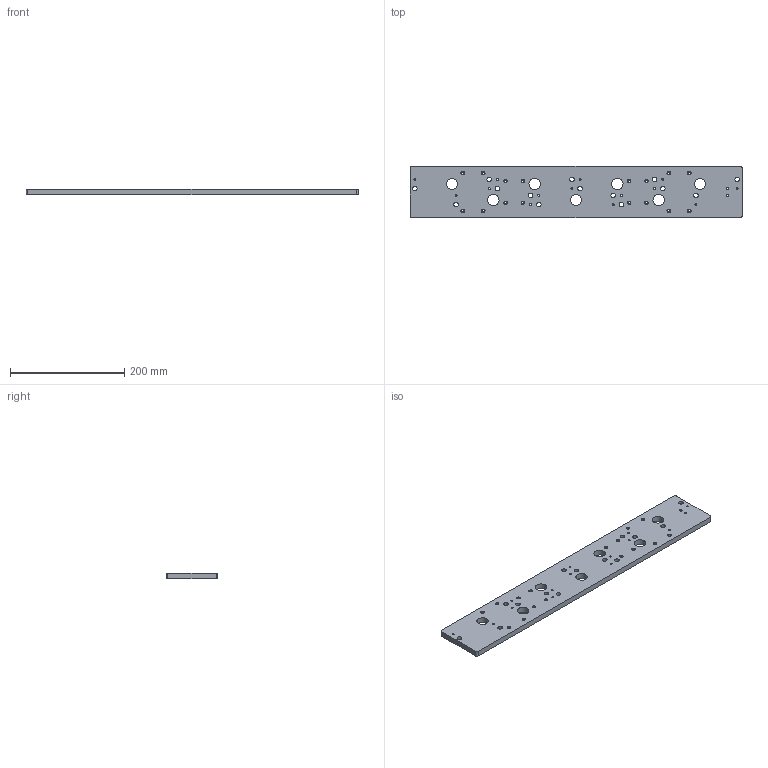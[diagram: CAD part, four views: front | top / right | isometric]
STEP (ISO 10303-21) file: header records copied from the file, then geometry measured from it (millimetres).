
FILE_DESCRIPTION(('STEP AP203'), '1');
FILE_NAME('眐珆1801.01.08.01.002 - 砑霘馯罻', '', ('UNSPECIFIED'), ('UNSPECIFIED'), 'C3D Converter', 'C3D Toolkit', '');
FILE_SCHEMA(('CONFIG_CONTROL_DESIGN'));
Length unit declared in the file: millimetre
Products named in the file (1): ТППФ1801.01.08.01.002
Bounding box: 580 x 90 x 10 mm (x, y, z)
Volume: 485166.8 mm3; surface area: 123450.5 mm2
Topology: 1 solids, 1 shells, 165 faces, 359 edges, 224 vertices
Faces by surface type: cylinder 85, cone 46, plane 34
Full cylindrical faces by diameter (mm): 3.242 x16, 4.134 x16, 8 x14, 14 x14, 15 x14, 20 x7
Entity records: 5498 total; most frequent: DIRECTION 780, CARTESIAN_POINT 622, ORIENTED_EDGE 464, EDGE_LOOP 426, AXIS2_PLACEMENT_3D 382, FACE_OUTER_BOUND 254, EDGE_CURVE 232, VERTEX_POINT 224
